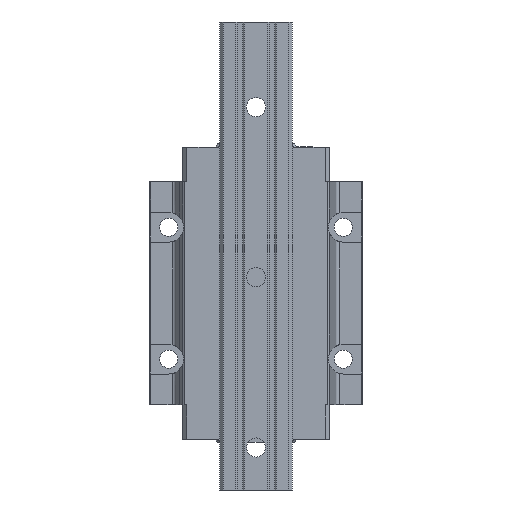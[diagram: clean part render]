
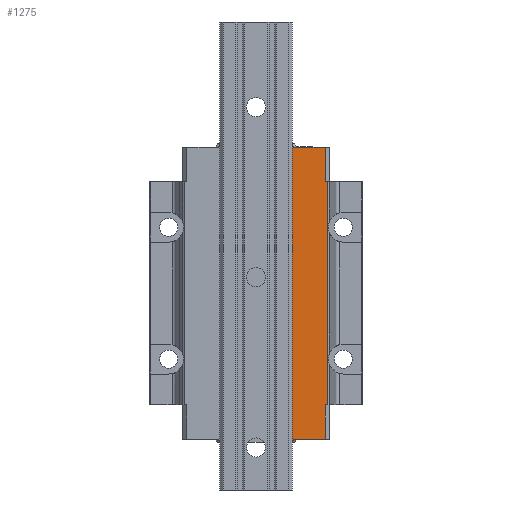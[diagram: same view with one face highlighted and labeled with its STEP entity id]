
A CAD part, front view. The second image highlights one B-rep face of the part: STEP entity #1275.
In plain terms, the highlighted planar face has unit normal (0, -1, 0).
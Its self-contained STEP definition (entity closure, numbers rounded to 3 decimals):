
#848=FACE_OUTER_BOUND('',#3703,.T.);
#1275=ADVANCED_FACE('',(#848),#1730,.F.);
#1730=PLANE('',#9314);
#2038=LINE('',#12264,#2743);
#2039=LINE('',#12267,#2744);
#2040=LINE('',#12269,#2745);
#2041=LINE('',#12271,#2746);
#2042=LINE('',#12273,#2747);
#2043=LINE('',#12275,#2748);
#2044=LINE('',#12277,#2749);
#2045=LINE('',#12279,#2750);
#2046=LINE('',#12281,#2751);
#2047=LINE('',#12283,#2752);
#2048=LINE('',#12285,#2753);
#2049=LINE('',#12287,#2754);
#2743=VECTOR('',#10183,1.);
#2744=VECTOR('',#10184,1.);
#2745=VECTOR('',#10185,1.);
#2746=VECTOR('',#10186,1.);
#2747=VECTOR('',#10187,1.);
#2748=VECTOR('',#10188,1.);
#2749=VECTOR('',#10189,1.);
#2750=VECTOR('',#10190,1.);
#2751=VECTOR('',#10191,1.);
#2752=VECTOR('',#10192,1.);
#2753=VECTOR('',#10193,1.);
#2754=VECTOR('',#10194,1.);
#3703=EDGE_LOOP('',(#4543,#4544,#4545,#4546,#4547,#4548,#4549,#4550,#4551,
#4552,#4553,#4554));
#4543=ORIENTED_EDGE('',*,*,#7823,.F.);
#4544=ORIENTED_EDGE('',*,*,#7824,.T.);
#4545=ORIENTED_EDGE('',*,*,#7825,.F.);
#4546=ORIENTED_EDGE('',*,*,#7826,.F.);
#4547=ORIENTED_EDGE('',*,*,#7827,.T.);
#4548=ORIENTED_EDGE('',*,*,#7828,.T.);
#4549=ORIENTED_EDGE('',*,*,#7829,.T.);
#4550=ORIENTED_EDGE('',*,*,#7830,.F.);
#4551=ORIENTED_EDGE('',*,*,#7831,.F.);
#4552=ORIENTED_EDGE('',*,*,#7832,.F.);
#4553=ORIENTED_EDGE('',*,*,#7833,.T.);
#4554=ORIENTED_EDGE('',*,*,#7834,.T.);
#6892=VERTEX_POINT('',#12265);
#6893=VERTEX_POINT('',#12266);
#6894=VERTEX_POINT('',#12268);
#6895=VERTEX_POINT('',#12270);
#6896=VERTEX_POINT('',#12272);
#6897=VERTEX_POINT('',#12274);
#6898=VERTEX_POINT('',#12276);
#6899=VERTEX_POINT('',#12278);
#6900=VERTEX_POINT('',#12280);
#6901=VERTEX_POINT('',#12282);
#6902=VERTEX_POINT('',#12284);
#6903=VERTEX_POINT('',#12286);
#7823=EDGE_CURVE('',#6892,#6893,#2038,.T.);
#7824=EDGE_CURVE('',#6892,#6894,#2039,.T.);
#7825=EDGE_CURVE('',#6895,#6894,#2040,.T.);
#7826=EDGE_CURVE('',#6896,#6895,#2041,.T.);
#7827=EDGE_CURVE('',#6896,#6897,#2042,.T.);
#7828=EDGE_CURVE('',#6897,#6898,#2043,.T.);
#7829=EDGE_CURVE('',#6898,#6899,#2044,.T.);
#7830=EDGE_CURVE('',#6900,#6899,#2045,.T.);
#7831=EDGE_CURVE('',#6901,#6900,#2046,.T.);
#7832=EDGE_CURVE('',#6902,#6901,#2047,.T.);
#7833=EDGE_CURVE('',#6902,#6903,#2048,.T.);
#7834=EDGE_CURVE('',#6903,#6893,#2049,.T.);
#9314=AXIS2_PLACEMENT_3D('',#12288,#10195,#10196);
#10183=DIRECTION('',(0.,0.,1.));
#10184=DIRECTION('',(1.,0.,0.));
#10185=DIRECTION('',(-0.5,0.,-0.866));
#10186=DIRECTION('',(-1.,0.,0.));
#10187=DIRECTION('',(0.,0.,1.));
#10188=DIRECTION('',(1.,0.,0.));
#10189=DIRECTION('',(0.,0.,1.));
#10190=DIRECTION('',(1.,0.,0.));
#10191=DIRECTION('',(0.,0.,-1.));
#10192=DIRECTION('',(1.,0.,0.));
#10193=DIRECTION('',(-0.5,0.,0.866));
#10194=DIRECTION('',(-1.,0.,0.));
#10195=DIRECTION('',(0.,1.,0.));
#10196=DIRECTION('',(0.,0.,-1.));
#12264=CARTESIAN_POINT('',(11.953,-6.483,246.563));
#12265=CARTESIAN_POINT('',(11.953,-6.483,102.363));
#12266=CARTESIAN_POINT('',(11.953,-6.483,242.663));
#12267=CARTESIAN_POINT('',(-3.797,-6.483,102.363));
#12268=CARTESIAN_POINT('',(13.087,-6.483,102.363));
#12269=CARTESIAN_POINT('',(13.953,-6.483,103.863));
#12270=CARTESIAN_POINT('',(13.953,-6.483,103.863));
#12271=CARTESIAN_POINT('',(-3.797,-6.483,103.863));
#12272=CARTESIAN_POINT('',(28.703,-6.483,103.863));
#12273=CARTESIAN_POINT('',(28.703,-6.483,120.013));
#12274=CARTESIAN_POINT('',(28.703,-6.483,120.013));
#12275=CARTESIAN_POINT('',(-38.315,-6.483,120.013));
#12276=CARTESIAN_POINT('',(30.003,-6.483,120.013));
#12277=CARTESIAN_POINT('',(30.003,-6.483,104.013));
#12278=CARTESIAN_POINT('',(30.003,-6.483,225.013));
#12279=CARTESIAN_POINT('',(-38.315,-6.483,225.013));
#12280=CARTESIAN_POINT('',(28.703,-6.483,225.013));
#12281=CARTESIAN_POINT('',(28.703,-6.483,225.013));
#12282=CARTESIAN_POINT('',(28.703,-6.483,241.163));
#12283=CARTESIAN_POINT('',(-3.797,-6.483,241.163));
#12284=CARTESIAN_POINT('',(13.953,-6.483,241.163));
#12285=CARTESIAN_POINT('',(16.508,-6.483,236.736));
#12286=CARTESIAN_POINT('',(13.087,-6.483,242.663));
#12287=CARTESIAN_POINT('',(-3.797,-6.483,242.663));
#12288=CARTESIAN_POINT('',(-38.315,-6.483,97.163));
